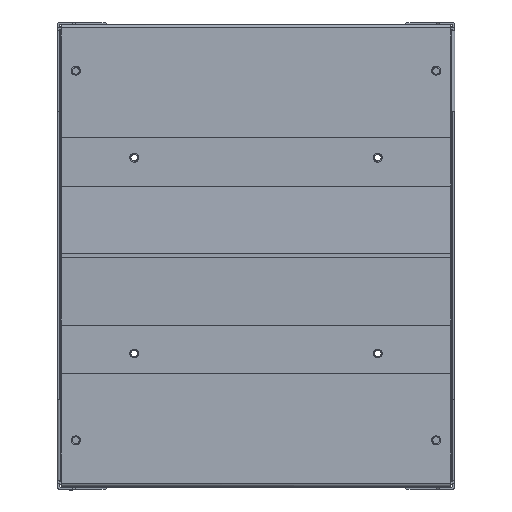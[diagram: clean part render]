
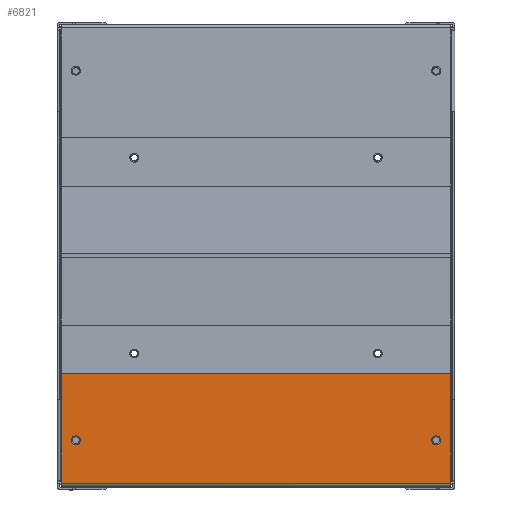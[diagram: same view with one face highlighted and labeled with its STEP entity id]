
A CAD part, top view. The second image highlights one B-rep face of the part: STEP entity #6821.
In plain terms, the highlighted planar face has unit normal (0, 0, 1).
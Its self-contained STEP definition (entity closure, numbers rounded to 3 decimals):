
#5526=CARTESIAN_POINT(' ',(108.25,18.,0.));
#5527=VERTEX_POINT(' ',#5526);
#5541=CARTESIAN_POINT(' ',(111.,18.,0.));
#5546=DIRECTION(' ',(0.,-0.,1.));
#5551=DIRECTION(' ',(-1.,0.,0.));
#5556=AXIS2_PLACEMENT_3D(' ',#5541,#5546,#5551);
#5561=CIRCLE('',#5556,2.75);
#5566=CARTESIAN_POINT(' ',(113.75,18.,0.));
#5567=VERTEX_POINT(' ',#5566);
#5571=EDGE_CURVE(' ',#5527,#5567,#5561,.T.);
#6236=CARTESIAN_POINT(' ',(111.,18.,0.));
#6241=DIRECTION(' ',(0.,0.,1.));
#6246=DIRECTION(' ',(1.,0.,0.));
#6251=AXIS2_PLACEMENT_3D(' ',#6236,#6241,#6246);
#6256=CIRCLE('',#6251,2.75);
#6261=EDGE_CURVE(' ',#5567,#5527,#6256,.T.);
#6286=DIRECTION(' ',(-0.,0.,1.));
#6291=CARTESIAN_POINT(' ',(-120.,-45.,0.));
#6296=DIRECTION(' ',(1.,0.,0.));
#6301=AXIS2_PLACEMENT_3D(' ',#6291,#6286,#6296);
#6306=PLANE('NONE',#6301);
#6311=CARTESIAN_POINT(' ',(-118.,-45.,0.));
#6316=DIRECTION(' ',(1.,0.,0.));
#6321=VECTOR(' ',#6316,1.);
#6326=LINE('',#6311,#6321);
#6331=CARTESIAN_POINT(' ',(-118.,-45.,0.));
#6332=VERTEX_POINT(' ',#6331);
#6336=CARTESIAN_POINT(' ',(118.,-45.,0.));
#6337=VERTEX_POINT(' ',#6336);
#6341=EDGE_CURVE(' ',#6332,#6337,#6326,.T.);
#6346=ORIENTED_EDGE(' ',*,*,#6341,.T.);
#6351=CARTESIAN_POINT(' ',(118.,-45.,0.));
#6356=DIRECTION(' ',(0.707,0.707,0.));
#6361=VECTOR(' ',#6356,1.);
#6366=LINE('',#6351,#6361);
#6371=CARTESIAN_POINT(' ',(120.,-43.,0.));
#6372=VERTEX_POINT(' ',#6371);
#6376=EDGE_CURVE(' ',#6337,#6372,#6366,.T.);
#6381=ORIENTED_EDGE(' ',*,*,#6376,.T.);
#6386=CARTESIAN_POINT(' ',(120.,-43.,0.));
#6391=DIRECTION(' ',(0.,1.,0.));
#6396=VECTOR(' ',#6391,1.);
#6401=LINE('',#6386,#6396);
#6406=CARTESIAN_POINT(' ',(120.,44.4,0.));
#6407=VERTEX_POINT(' ',#6406);
#6411=EDGE_CURVE(' ',#6372,#6407,#6401,.T.);
#6416=ORIENTED_EDGE(' ',*,*,#6411,.T.);
#6421=CARTESIAN_POINT(' ',(120.,44.4,0.));
#6426=DIRECTION(' ',(-1.,0.,0.));
#6431=VECTOR(' ',#6426,1.);
#6436=LINE('',#6421,#6431);
#6441=CARTESIAN_POINT(' ',(-120.,44.4,0.));
#6442=VERTEX_POINT(' ',#6441);
#6446=EDGE_CURVE(' ',#6407,#6442,#6436,.T.);
#6451=ORIENTED_EDGE(' ',*,*,#6446,.T.);
#6456=CARTESIAN_POINT(' ',(-120.,44.4,0.));
#6461=DIRECTION(' ',(0.,-1.,0.));
#6466=VECTOR(' ',#6461,1.);
#6471=LINE('',#6456,#6466);
#6476=CARTESIAN_POINT(' ',(-120.,-43.,0.));
#6477=VERTEX_POINT(' ',#6476);
#6481=EDGE_CURVE(' ',#6442,#6477,#6471,.T.);
#6486=ORIENTED_EDGE(' ',*,*,#6481,.T.);
#6491=CARTESIAN_POINT(' ',(-120.,-43.,0.));
#6496=DIRECTION(' ',(0.707,-0.707,0.));
#6501=VECTOR(' ',#6496,1.);
#6506=LINE('',#6491,#6501);
#6511=EDGE_CURVE(' ',#6477,#6332,#6506,.T.);
#6516=ORIENTED_EDGE(' ',*,*,#6511,.T.);
#6521=EDGE_LOOP(' ',(#6346,#6381,#6416,#6451,#6486,#6516));
#6526=FACE_OUTER_BOUND(' ',#6521,.T.);
#6531=ORIENTED_EDGE(' ',*,*,#6261,.F.);
#6536=ORIENTED_EDGE(' ',*,*,#5571,.F.);
#6541=EDGE_LOOP(' ',(#6531,#6536));
#6546=FACE_BOUND(' ',#6541,.T.);
#6551=CARTESIAN_POINT(' ',(-111.,18.,0.));
#6556=DIRECTION(' ',(0.,0.,1.));
#6561=DIRECTION(' ',(1.,0.,0.));
#6566=AXIS2_PLACEMENT_3D(' ',#6551,#6556,#6561);
#6571=CIRCLE('',#6566,2.75);
#6576=CARTESIAN_POINT(' ',(-108.25,18.,0.));
#6577=VERTEX_POINT(' ',#6576);
#6581=CARTESIAN_POINT(' ',(-113.75,18.,0.));
#6582=VERTEX_POINT(' ',#6581);
#6586=EDGE_CURVE(' ',#6577,#6582,#6571,.T.);
#6591=ORIENTED_EDGE(' ',*,*,#6586,.F.);
#6596=CARTESIAN_POINT(' ',(-111.,18.,0.));
#6601=DIRECTION(' ',(0.,-0.,1.));
#6606=DIRECTION(' ',(-1.,0.,0.));
#6611=AXIS2_PLACEMENT_3D(' ',#6596,#6601,#6606);
#6616=CIRCLE('',#6611,2.75);
#6621=EDGE_CURVE(' ',#6582,#6577,#6616,.T.);
#6626=ORIENTED_EDGE(' ',*,*,#6621,.F.);
#6631=EDGE_LOOP(' ',(#6591,#6626));
#6636=FACE_BOUND(' ',#6631,.T.);
#6641=CARTESIAN_POINT(' ',(-75.,-35.5,0.));
#6646=DIRECTION(' ',(0.,0.,1.));
#6651=DIRECTION(' ',(1.,0.,0.));
#6656=AXIS2_PLACEMENT_3D(' ',#6641,#6646,#6651);
#6661=CIRCLE('',#6656,2.1);
#6666=CARTESIAN_POINT(' ',(-72.9,-35.5,0.));
#6667=VERTEX_POINT(' ',#6666);
#6671=CARTESIAN_POINT(' ',(-77.1,-35.5,0.));
#6672=VERTEX_POINT(' ',#6671);
#6676=EDGE_CURVE(' ',#6667,#6672,#6661,.T.);
#6681=ORIENTED_EDGE(' ',*,*,#6676,.F.);
#6686=CARTESIAN_POINT(' ',(-75.,-35.5,0.));
#6691=DIRECTION(' ',(0.,-0.,1.));
#6696=DIRECTION(' ',(-1.,0.,0.));
#6701=AXIS2_PLACEMENT_3D(' ',#6686,#6691,#6696);
#6706=CIRCLE('',#6701,2.1);
#6711=EDGE_CURVE(' ',#6672,#6667,#6706,.T.);
#6716=ORIENTED_EDGE(' ',*,*,#6711,.F.);
#6721=EDGE_LOOP(' ',(#6681,#6716));
#6726=FACE_BOUND(' ',#6721,.T.);
#6731=CARTESIAN_POINT(' ',(75.,-35.5,0.));
#6736=DIRECTION(' ',(0.,0.,1.));
#6741=DIRECTION(' ',(1.,0.,0.));
#6746=AXIS2_PLACEMENT_3D(' ',#6731,#6736,#6741);
#6751=CIRCLE('',#6746,2.1);
#6756=CARTESIAN_POINT(' ',(77.1,-35.5,0.));
#6757=VERTEX_POINT(' ',#6756);
#6761=CARTESIAN_POINT(' ',(72.9,-35.5,0.));
#6762=VERTEX_POINT(' ',#6761);
#6766=EDGE_CURVE(' ',#6757,#6762,#6751,.T.);
#6771=ORIENTED_EDGE(' ',*,*,#6766,.F.);
#6776=CARTESIAN_POINT(' ',(75.,-35.5,0.));
#6781=DIRECTION(' ',(0.,-0.,1.));
#6786=DIRECTION(' ',(-1.,0.,0.));
#6791=AXIS2_PLACEMENT_3D(' ',#6776,#6781,#6786);
#6796=CIRCLE('',#6791,2.1);
#6801=EDGE_CURVE(' ',#6762,#6757,#6796,.T.);
#6806=ORIENTED_EDGE(' ',*,*,#6801,.F.);
#6811=EDGE_LOOP(' ',(#6771,#6806));
#6816=FACE_BOUND(' ',#6811,.T.);
#6821=ADVANCED_FACE('NONE',(#6526,#6546,#6636,#6726,#6816),#6306,.T.);
